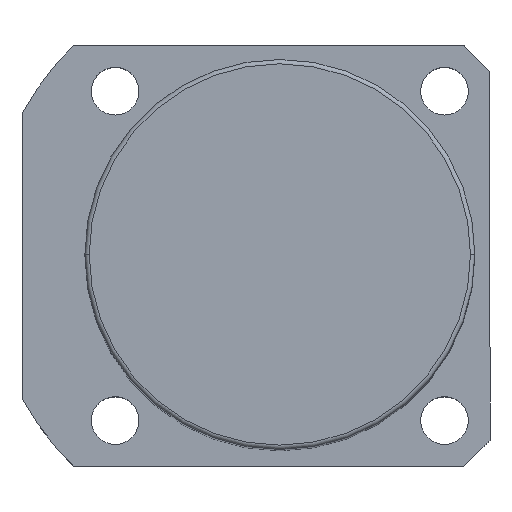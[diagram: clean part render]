
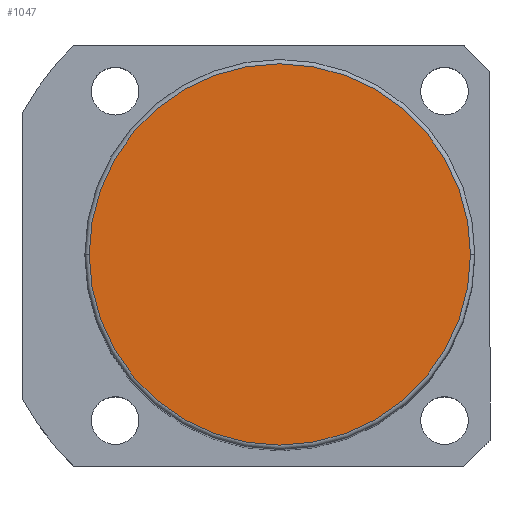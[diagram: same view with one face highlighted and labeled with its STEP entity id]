
A CAD part, top view. The second image highlights one B-rep face of the part: STEP entity #1047.
In plain terms, the highlighted planar face has unit normal (0, 0, 1).
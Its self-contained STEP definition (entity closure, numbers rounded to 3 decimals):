
#41 = CIRCLE ( 'NONE', #1919, 44. ) ;
#55 = DIRECTION ( 'NONE',  ( 0., 0., 1. ) ) ;
#161 = VERTEX_POINT ( 'NONE', #1675 ) ;
#231 = EDGE_CURVE ( 'NONE', #882, #161, #1208, .T. ) ;
#401 = CARTESIAN_POINT ( 'NONE',  ( 0., 0., 201.5 ) ) ;
#422 = DIRECTION ( 'NONE',  ( 0., 0., 1. ) ) ;
#543 = FACE_OUTER_BOUND ( 'NONE', #745, .T. ) ;
#665 = DIRECTION ( 'NONE',  ( 0., 0., 1. ) ) ;
#745 = EDGE_LOOP ( 'NONE', ( #1385, #1813 ) ) ;
#882 = VERTEX_POINT ( 'NONE', #1703 ) ;
#953 = DIRECTION ( 'NONE',  ( 1., 0., 0. ) ) ;
#1047 = ADVANCED_FACE ( 'NONE', ( #543 ), #1142, .T. ) ;
#1105 = CARTESIAN_POINT ( 'NONE',  ( 0., 0., 201.5 ) ) ;
#1142 = PLANE ( 'NONE',  #1353 ) ;
#1208 = CIRCLE ( 'NONE', #1438, 44. ) ;
#1318 = DIRECTION ( 'NONE',  ( 1., 0., 0. ) ) ;
#1353 = AXIS2_PLACEMENT_3D ( 'NONE', #401, #422, #1318 ) ;
#1385 = ORIENTED_EDGE ( 'NONE', *, *, #231, .T. ) ;
#1438 = AXIS2_PLACEMENT_3D ( 'NONE', #1105, #55, #953 ) ;
#1675 = CARTESIAN_POINT ( 'NONE',  ( -44., 0., 201.5 ) ) ;
#1703 = CARTESIAN_POINT ( 'NONE',  ( 44., 0., 201.5 ) ) ;
#1744 = EDGE_CURVE ( 'NONE', #161, #882, #41, .T. ) ;
#1752 = CARTESIAN_POINT ( 'NONE',  ( 0., 0., 201.5 ) ) ;
#1813 = ORIENTED_EDGE ( 'NONE', *, *, #1744, .T. ) ;
#1911 = DIRECTION ( 'NONE',  ( 1., 0., 0. ) ) ;
#1919 = AXIS2_PLACEMENT_3D ( 'NONE', #1752, #665, #1911 ) ;
